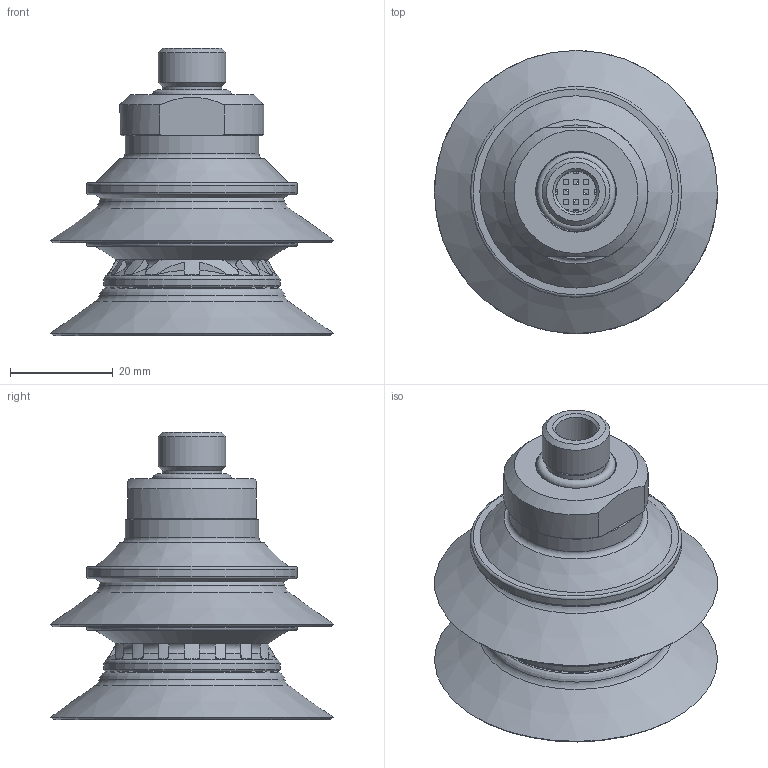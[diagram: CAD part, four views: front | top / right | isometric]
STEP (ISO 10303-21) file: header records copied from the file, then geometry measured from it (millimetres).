
FILE_DESCRIPTION( ( 'Unknown' ), '1' );
FILE_NAME( 'C:/Documents and Settings/owner/官帕 拳搁/荤夯 - B1.5/B2.5-40-U55-S-B-14M.stp', 'Unknown', ( 'Unknown' ), ( 'Unknown' ), 'XStep 1.0', 'Unknown', ' ' );
FILE_SCHEMA( ( 'automotive_design' ) );
Length unit declared in the file: millimetre
Products named in the file (6): Assem1; 14M-Oring; B1.5-40-14M; B2.5-40; B2.5-40-U55; B2.5-40-stopperB
Bounding box: 55 x 55 x 55.84 mm (x, y, z)
Volume: 40083.1 mm3; surface area: 44119.4 mm2
Topology: 10 solids, 10 shells, 1172 faces, 3406 edges, 2230 vertices
Faces by surface type: plane 704, cylinder 254, cone 110, torus 104
Full cylindrical faces by diameter (mm): 8 x2, 9.5 x2, 11.5 x2, 13.2 x2, 15.3 x2, 18 x4, 19 x2, 21 x4, 21.5 x4, 22 x2, 24 x2, 24.831 x2, 26 x2, 27.821 x2, 32 x2, 34.2 x2, 41 x4
Entity records: 20985 total; most frequent: CARTESIAN_POINT 4736, ORIENTED_EDGE 3230, DIRECTION 2928, EDGE_CURVE 1615, VERTEX_POINT 1109, LINE 978, VECTOR 978, AXIS2_PLACEMENT_3D 975
